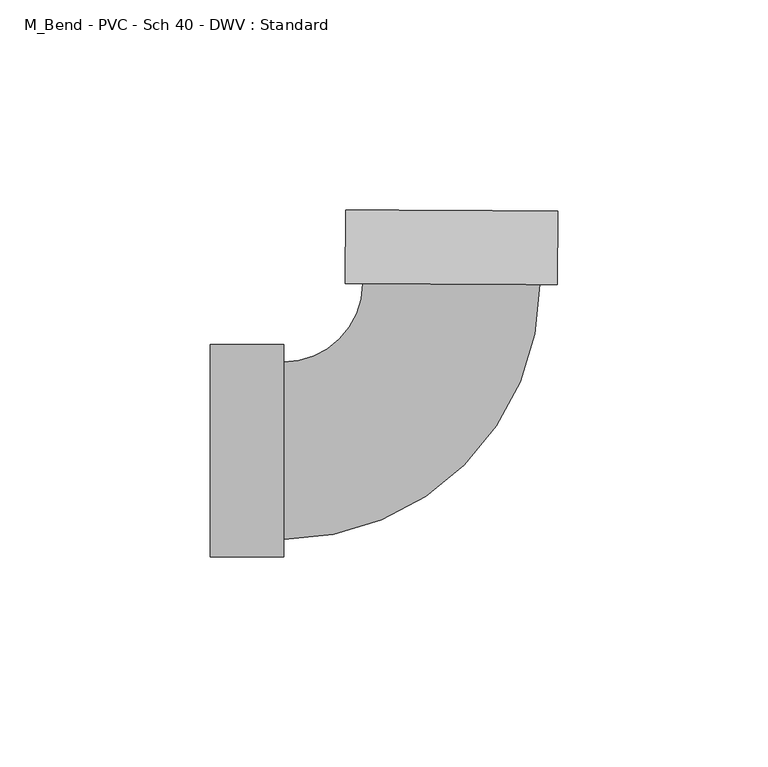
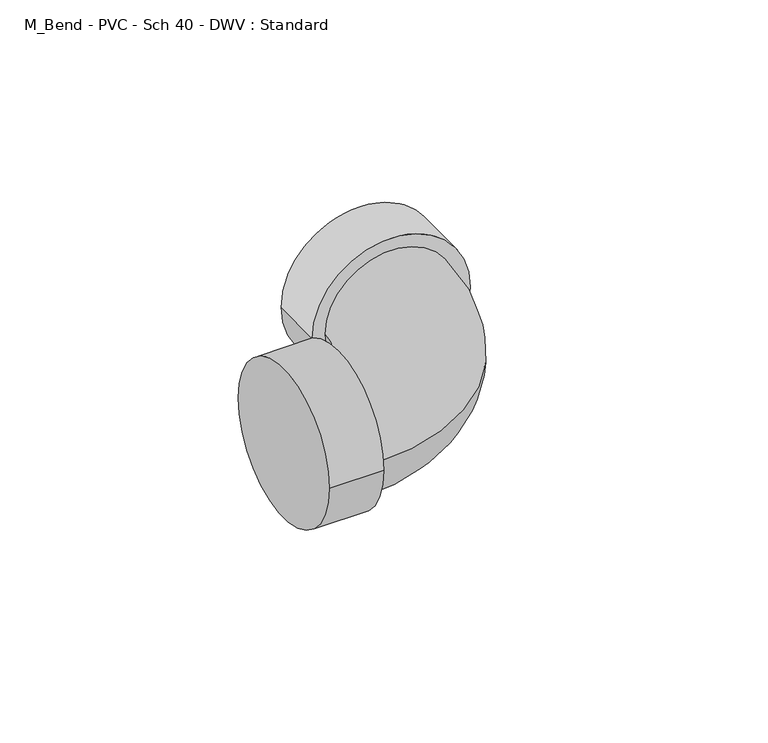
"""IFC4 building model written with IfcOpenShell, lengths in millimetres: pipe fitting geometry, M_Bend - PVC - Sch 40 - DWV : Standard."""

from ifc_helpers import new_model, si_unit, point, frame, origin, place, context, project, spatial, circle_curve, ellipse_curve, trimmed, source, transform, mapped, element, save
from ifc_brep_helpers import plane_surface, cylinder_surface, revolved_surface, advanced_brep


def m_bend_pvc_sch_40_dwv_standard_15ff6dcd(model_context):
    return source(origin(), model_context, "Body", "AdvancedBrep", [
        advanced_brep(
        [(-57.15, -25.2349, 0.0), (-57.15, 25.2349, 0.0), (-39.7002, -25.2349, 0.0), (-39.7002, 25.2349, 0.0), (-39.7002, -21.082, 0.0), (-39.7002, 21.082, 0.0), (-20.8781359, 39.8077888, 0.0), (21.2853097, 39.5915672, 0.0), (25.4381551, 39.5702707, 0.0), (-25.0309812, 39.8290853, 0.0), (25.5276396, 57.0198412, 0.0), (-24.9414968, 57.2786559, 0.0)],
        [
            (0, 1, circle_curve(frame((-57.15, 0.0, 0.0), z_axis=(-1.0, 0.0, 0.0), x_axis=(0.0, 1.0, 0.0)), 25.2349)),
            (1, 0, circle_curve(frame((-57.15, 0.0, 0.0), z_axis=(-1.0, 0.0, 0.0), x_axis=(0.0, 1.0, 0.0)), 25.2349)),
            (2, 3, circle_curve(frame((-39.7002, 0.0, 0.0), z_axis=(1.0, 0.0, 0.0), x_axis=(0.0, 1.0, 0.0)), 25.2349)),
            (3, 2, circle_curve(frame((-39.7002, 0.0, 0.0), z_axis=(1.0, 0.0, 0.0), x_axis=(0.0, 1.0, 0.0)), 25.2349)),
            (4, 5, circle_curve(frame((-39.7002, 0.0, 0.0), z_axis=(-1.0, 0.0, 0.0), x_axis=(0.0, 1.0, 0.0)), 21.082)),
            (5, 4, circle_curve(frame((-39.7002, 0.0, 0.0), z_axis=(-1.0, 0.0, 0.0), x_axis=(0.0, 1.0, 0.0)), 21.082)),
            (0, 2),
            (3, 1),
            (6, 5, circle_curve(frame((-39.7002, 39.9043116, 0.0), z_axis=(0.0, 0.0, -1.0), x_axis=(0.0, -1.0, 0.0)), 18.8223116)),
            (4, 7, circle_curve(frame((-39.7002, 39.9043116, 0.0), z_axis=(0.0, 0.0, 1.0), x_axis=(0.0, -1.0, 0.0)), 60.9863116)),
            (7, 6, circle_curve(frame((0.2035869, 39.699678, 0.0), z_axis=(-0.00512810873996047, -0.9999868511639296, 0.0), x_axis=(-0.9999868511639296, 0.00512810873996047, 0.0)), 21.082)),
            (6, 7, circle_curve(frame((0.2035869, 39.699678, 0.0), z_axis=(-0.00512810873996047, -0.9999868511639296, 0.0), x_axis=(-0.9999868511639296, 0.00512810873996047, 0.0)), 21.082)),
            (8, 9, circle_curve(frame((0.2035869, 39.699678, 0.0), z_axis=(-0.005128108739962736, -0.9999868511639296, 0.0), x_axis=(-0.9999868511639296, 0.005128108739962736, 0.0)), 25.2349)),
            (9, 8, circle_curve(frame((0.2035869, 39.699678, 0.0), z_axis=(-0.005128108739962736, -0.9999868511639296, 0.0), x_axis=(-0.9999868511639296, 0.005128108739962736, 0.0)), 25.2349)),
            (10, 11, circle_curve(frame((0.2930714, 57.1492485, 0.0), z_axis=(0.005128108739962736, 0.9999868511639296, 0.0), x_axis=(-0.9999868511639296, 0.005128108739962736, 0.0)), 25.2349)),
            (11, 10, circle_curve(frame((0.2930714, 57.1492485, 0.0), z_axis=(0.005128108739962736, 0.9999868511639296, 0.0), x_axis=(-0.9999868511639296, 0.005128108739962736, 0.0)), 25.2349)),
            (8, 10),
            (11, 9),
        ],
        [
            plane_surface(frame((-57.15, 0.0, 0.0), z_axis=(-1.0, 0.0, 0.0), x_axis=(0.0, 0.0, 1.0))),
            plane_surface(frame((-39.7002, 0.0, 0.0), z_axis=(1.0, 0.0, 0.0), x_axis=(0.0, 0.0, 1.0))),
            cylinder_surface(frame((-57.15, 0.0, 0.0), z_axis=(-1.0, 0.0, 0.0), x_axis=(0.0, 1.0, 0.0)), 25.2349),
            revolved_surface(trimmed(ellipse_curve(frame((-39.7002, 0.0, 0.0), z_axis=(-1.0, 0.0, 0.0), x_axis=(0.0, 1.0, 0.0)), 21.082, 21.082), [point((-39.7002, -21.082, 0.0))], [point((-39.7002, 21.082, 0.0))], True, "CARTESIAN"), (-39.7002, 39.9043116, 0.0), (0.0, 0.0, 1.0)),
            revolved_surface(trimmed(ellipse_curve(frame((-39.7002, 0.0, 0.0), z_axis=(-1.0, 0.0, 0.0), x_axis=(0.0, 1.0, 0.0)), 21.082, 21.082), [point((-39.7002, 21.082, 0.0))], [point((-39.7002, -21.082, 0.0))], True, "CARTESIAN"), (-39.7002, 39.9043116, 0.0), (0.0, 0.0, 1.0)),
            plane_surface(frame((0.2035869, 39.699678, 0.0), z_axis=(-0.005128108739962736, -0.9999868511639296, 0.0), x_axis=(0.0, 0.0, 1.0))),
            plane_surface(frame((0.2930714, 57.1492485, 0.0), z_axis=(0.005128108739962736, 0.9999868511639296, 0.0), x_axis=(0.0, 0.0, 1.0))),
            cylinder_surface(frame((0.2035869, 39.699678, 0.0), z_axis=(-0.005128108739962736, -0.9999868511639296, 0.0), x_axis=(-0.9999868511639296, 0.005128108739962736, 0.0)), 25.2349),
        ],
        [
            (0, [[1, 2]]),
            (1, [[3, 4], [5, 6]]),
            (2, [[-1, 7, -4, 8]]),
            (2, [[-2, -8, -3, -7]]),
            (3, [[9, -5, 10, 11]]),
            (4, [[-9, 12, -10, -6]]),
            (5, [[13, 14], [-11, -12]]),
            (6, [[15, 16]]),
            (7, [[-13, 17, -16, 18]]),
            (7, [[-14, -18, -15, -17]]),
        ],
    ),
    ])


if __name__ == "__main__":
    model = new_model("IFC4")
    model_context = context("Model", 3, world=origin())
    ifc_project = project(units=[si_unit("LENGTHUNIT", "METRE", prefix="MILLI")], contexts=[model_context])
    site = spatial("IfcSite", under=ifc_project)
    building = spatial("IfcBuilding", under=site)
    placement = place(None, origin())
    m_bend_pvc_sch_40_dwv_standard_shape = m_bend_pvc_sch_40_dwv_standard_15ff6dcd(model_context)
    element("IfcPipeFitting", 1, ObjectType="M_Bend - PVC - Sch 40 - DWV : Standard", at=placement, inside=building, context=model_context, shape_type="MappedRepresentation", body=[
        mapped(m_bend_pvc_sch_40_dwv_standard_shape, transform((0.0, 0.0, 0.0), x_axis=(1.0, 0.0, 0.0), y_axis=(0.0, 1.0, 0.0), z_axis=(0.0, 0.0, 1.0))),
    ])
    save(model, "model.ifc")
